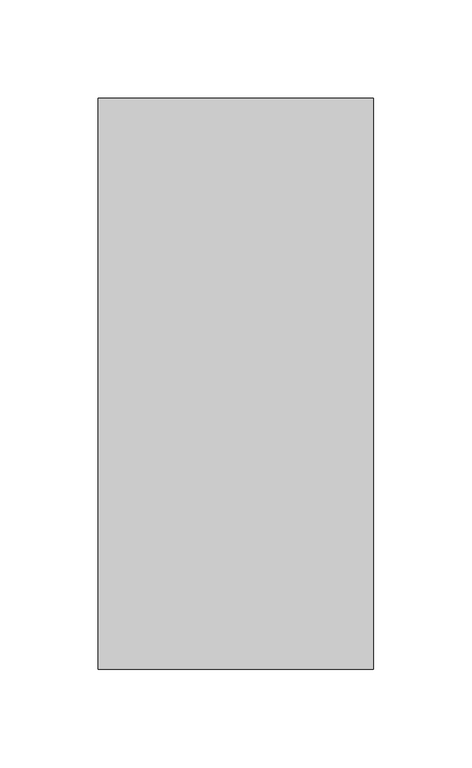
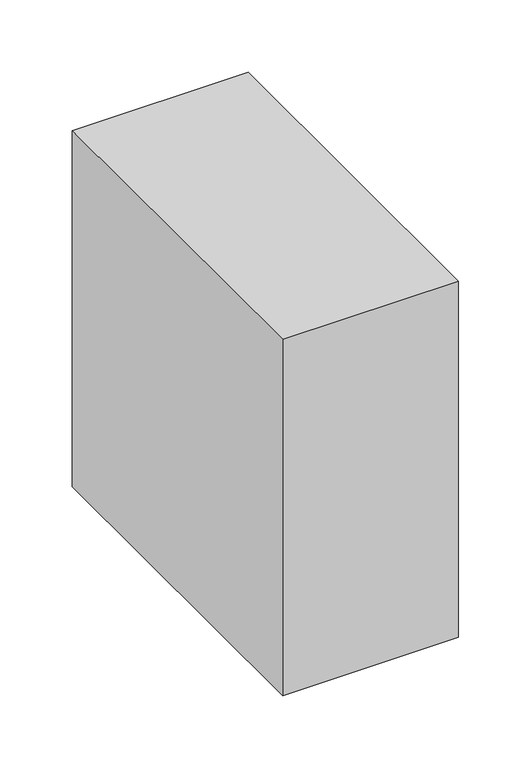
"""IFC4 building model written with IfcOpenShell, lengths in millimetres: proxy geometry."""

from ifc_helpers import new_model, si_unit, frame, origin, place, context, project, spatial, polyline, outline, extrude, source, transform, mapped, element, save


def structural_framing_0b52b871(model_context):
    return source(origin(), model_context, "Body", "SweptSolid", [
        extrude(outline(polyline([(70.0, -145.0599986), (-70.0, -145.0599986), (-70.0, 145.0599986), (70.0, 145.0599986), (70.0, -145.0599986)])), frame((0.0, 0.0, -300.0), z_axis=(0.0, 0.0, 1.0), x_axis=(1.0, 0.0, 0.0)), (0.0, 0.0, 1.0), 300.0),
    ])


if __name__ == "__main__":
    model = new_model("IFC4")
    model_context = context("Model", 3, world=origin())
    ifc_project = project(units=[si_unit("LENGTHUNIT", "METRE", prefix="MILLI")], contexts=[model_context])
    site = spatial("IfcSite", under=ifc_project)
    building = spatial("IfcBuilding", under=site)
    placement = place(None, origin())
    structural_framing_shape = structural_framing_0b52b871(model_context)
    element("IfcBuildingElementProxy", 1, Name="Structural Framing", at=placement, inside=building, context=model_context, shape_type="MappedRepresentation", body=[
        mapped(structural_framing_shape, transform((0.0, 0.0, 0.0), x_axis=(1.0, 0.0, 0.0), y_axis=(0.0, 1.0, 0.0), z_axis=(0.0, 0.0, 1.0))),
    ])
    save(model, "model.ifc")
